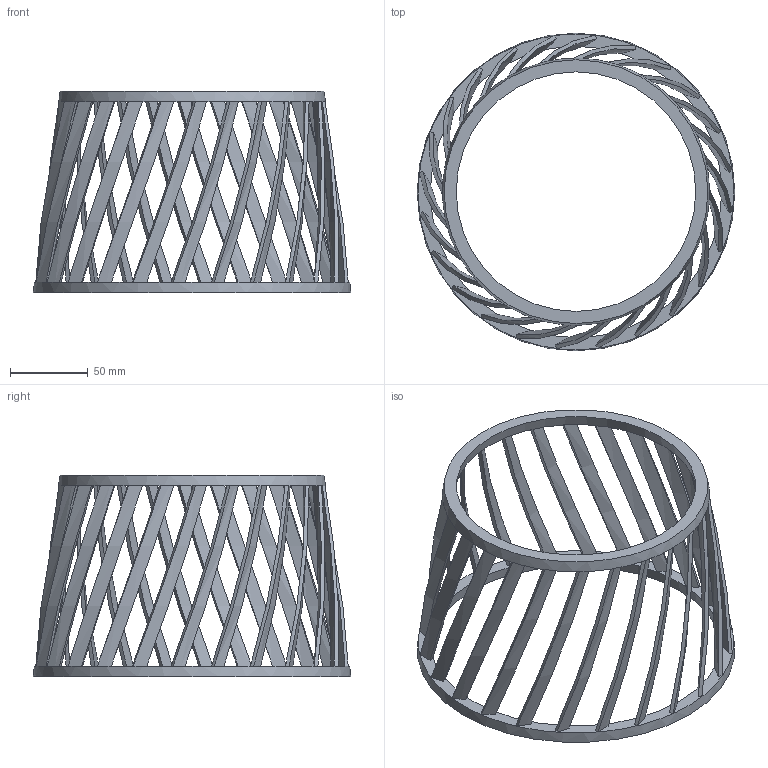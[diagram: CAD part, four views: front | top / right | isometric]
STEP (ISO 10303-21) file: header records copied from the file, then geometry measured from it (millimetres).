
FILE_DESCRIPTION(('Open CASCADE Model'),'2;1');
FILE_NAME('Open CASCADE Shape Model','2026-10-15T23:05:06',('Author'),( 'Open CASCADE'),'Open CASCADE STEP processor 7.9','Open CASCADE 7.9' ,'Unknown');
FILE_SCHEMA(('AUTOMOTIVE_DESIGN { 1 0 10303 214 1 1 1 1 }'));
Length unit declared in the file: millimetre
Products named in the file (1): Open CASCADE STEP translator 7.9 9
Bounding box: 204.44 x 204.44 x 130 mm (x, y, z)
Volume: 121641.8 mm3; surface area: 97077.1 mm2
Topology: 1 solids, 1 shells, 116 faces, 318 edges, 212 vertices
Faces by surface type: bspline 96, plane 10, cylinder 6, cone 4
Full cylindrical faces by diameter (mm): 2.2 x6
Entity records: 10476 total; most frequent: CARTESIAN_POINT 5735, ORIENTED_EDGE 636, PCURVE 636, DEFINITIONAL_REPRESENTATION 636, B_SPLINE_CURVE_WITH_KNOTS 576, DIRECTION 338, EDGE_CURVE 318, SURFACE_CURVE 308
